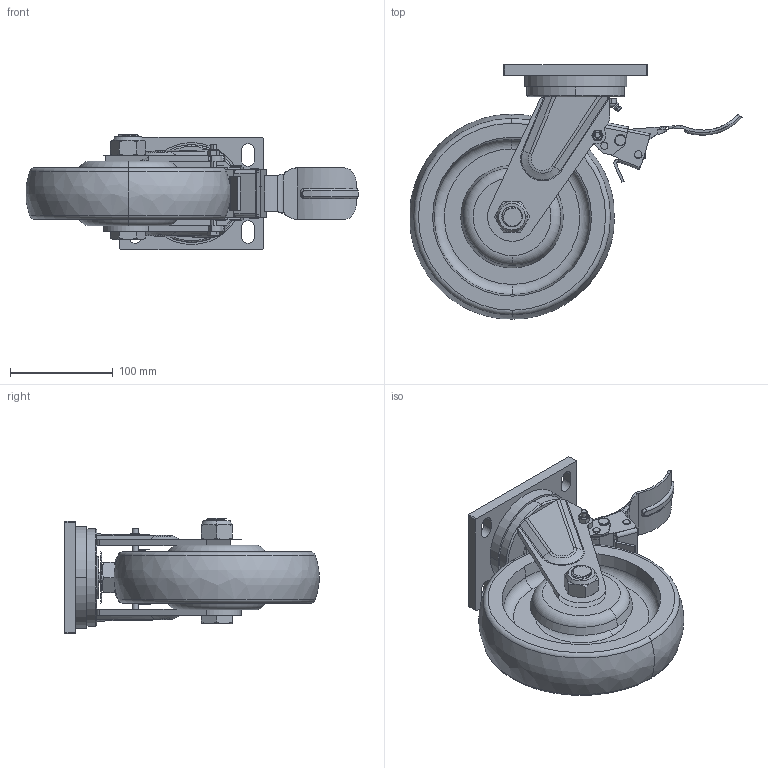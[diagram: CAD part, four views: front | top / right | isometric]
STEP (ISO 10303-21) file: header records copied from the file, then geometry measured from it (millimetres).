
FILE_DESCRIPTION((''),'2;1');
FILE_NAME('PRT0002','2025-05-12T10:21:40',('Administrator'),(''),'CREO PARAMETRIC BY PTC INC, 2022124','CREO PARAMETRIC BY PTC INC, 2022124','');
FILE_SCHEMA(('AP203_CONFIGURATION_CONTROLLED_3D_DESIGN_OF_MECHANICAL_PARTS_AND_ASSEMBLIES_MIM_LF { 1 0 10303 403 2 1 2 }'));
Length unit declared in the file: millimetre
Products named in the file (1): PRT0002
Bounding box: 323.8 x 247.83 x 113 mm (x, y, z)
Surface area: 267429.7 mm2 (no closed solid volume)
Topology: 0 solids, 43 shells, 326 faces, 1255 edges, 939 vertices
Faces by surface type: plane 138, cone 55, cylinder 55, bspline 45, torus 33
Entity records: 19733 total; most frequent: CARTESIAN_POINT 7602, ORIENTED_EDGE 1908, DIRECTION 1843, EDGE_CURVE 1255, VERTEX_POINT 953, AXIS2_PLACEMENT_3D 717, CIRCLE 426, B_SPLINE_CURVE_WITH_KNOTS 423
